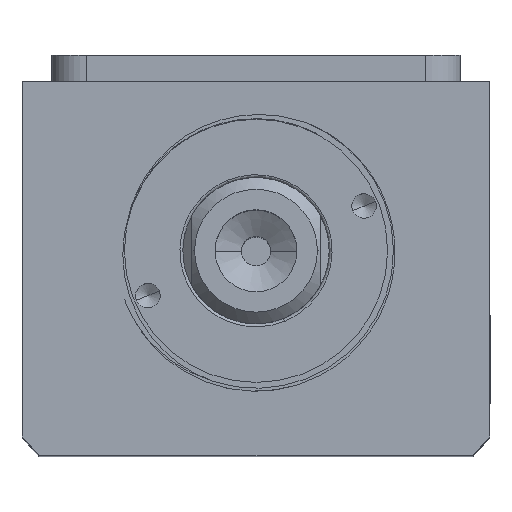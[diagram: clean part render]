
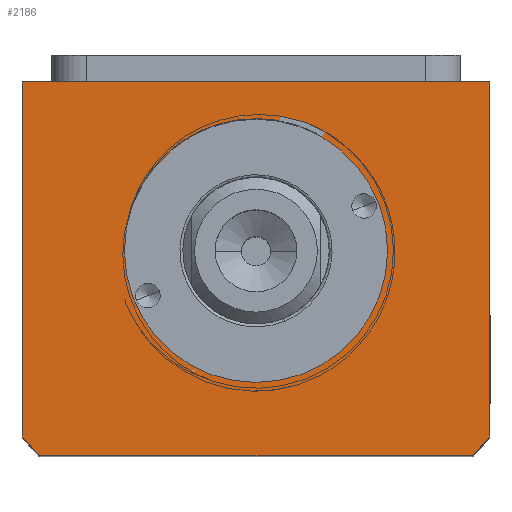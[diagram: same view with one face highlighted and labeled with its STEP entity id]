
A CAD part, top view. The second image highlights one B-rep face of the part: STEP entity #2186.
In plain terms, the highlighted planar face has unit normal (0, 0, 1).
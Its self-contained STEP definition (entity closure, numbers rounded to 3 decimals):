
#520 = CARTESIAN_POINT ( 'NONE',  ( -40., -28.639, 130. ) ) ;
#572 = VERTEX_POINT ( 'NONE', #5864 ) ;
#668 = DIRECTION ( 'NONE',  ( 1., 0., 0. ) ) ;
#873 = CARTESIAN_POINT ( 'NONE',  ( 0., 3., 130. ) ) ;
#1012 = EDGE_LOOP ( 'NONE', ( #7734, #4722, #2351, #2119, #10127, #3475 ) ) ;
#1171 = EDGE_CURVE ( 'NONE', #2992, #3617, #3167, .T. ) ;
#1592 = AXIS2_PLACEMENT_3D ( 'NONE', #4134, #9740, #4934 ) ;
#1668 = DIRECTION ( 'NONE',  ( 1., 0., 0. ) ) ;
#1870 = VERTEX_POINT ( 'NONE', #4838 ) ;
#1871 = EDGE_LOOP ( 'NONE', ( #6368, #10134 ) ) ;
#2119 = ORIENTED_EDGE ( 'NONE', *, *, #8460, .T. ) ;
#2122 = VERTEX_POINT ( 'NONE', #8535 ) ;
#2186 = ADVANCED_FACE ( 'NONE', ( #3047, #9184 ), #10221, .T. ) ;
#2237 = CARTESIAN_POINT ( 'NONE',  ( -40., -32., 130. ) ) ;
#2351 = ORIENTED_EDGE ( 'NONE', *, *, #2876, .T. ) ;
#2397 = DIRECTION ( 'NONE',  ( 0., 1., 0. ) ) ;
#2417 = LINE ( 'NONE', #2237, #8552 ) ;
#2594 = VERTEX_POINT ( 'NONE', #2786 ) ;
#2671 = EDGE_CURVE ( 'NONE', #2594, #8388, #9324, .T. ) ;
#2786 = CARTESIAN_POINT ( 'NONE',  ( -22.5, 3., 130. ) ) ;
#2861 = CARTESIAN_POINT ( 'NONE',  ( 0., 3., 130. ) ) ;
#2876 = EDGE_CURVE ( 'NONE', #3617, #9245, #2417, .T. ) ;
#2954 = AXIS2_PLACEMENT_3D ( 'NONE', #4216, #9828, #5015 ) ;
#2991 = CIRCLE ( 'NONE', #3106, 22.5 ) ;
#2992 = VERTEX_POINT ( 'NONE', #520 ) ;
#3047 = FACE_BOUND ( 'NONE', #1871, .T. ) ;
#3106 = AXIS2_PLACEMENT_3D ( 'NONE', #873, #6433, #1668 ) ;
#3167 = CIRCLE ( 'NONE', #2954, 51. ) ;
#3353 = CIRCLE ( 'NONE', #1592, 51. ) ;
#3475 = ORIENTED_EDGE ( 'NONE', *, *, #9884, .T. ) ;
#3617 = VERTEX_POINT ( 'NONE', #7779 ) ;
#3661 = DIRECTION ( 'NONE',  ( 1., 0., 0. ) ) ;
#3751 = LINE ( 'NONE', #7793, #5861 ) ;
#4134 = CARTESIAN_POINT ( 'NONE',  ( 0., 3., 130. ) ) ;
#4216 = CARTESIAN_POINT ( 'NONE',  ( 0., 3., 130. ) ) ;
#4642 = EDGE_CURVE ( 'NONE', #1870, #2992, #5676, .T. ) ;
#4722 = ORIENTED_EDGE ( 'NONE', *, *, #1171, .T. ) ;
#4838 = CARTESIAN_POINT ( 'NONE',  ( -40., 32., 130. ) ) ;
#4934 = DIRECTION ( 'NONE',  ( 1., 0., 0. ) ) ;
#5015 = DIRECTION ( 'NONE',  ( 1., 0., 0. ) ) ;
#5411 = DIRECTION ( 'NONE',  ( 0., 0., 1. ) ) ;
#5676 = LINE ( 'NONE', #9218, #7816 ) ;
#5861 = VECTOR ( 'NONE', #8609, 1000. ) ;
#5864 = CARTESIAN_POINT ( 'NONE',  ( 40., 32., 130. ) ) ;
#6212 = DIRECTION ( 'NONE',  ( 1., 0., 0. ) ) ;
#6298 = AXIS2_PLACEMENT_3D ( 'NONE', #8606, #5411, #668 ) ;
#6368 = ORIENTED_EDGE ( 'NONE', *, *, #10124, .F. ) ;
#6369 = LINE ( 'NONE', #7974, #8507 ) ;
#6433 = DIRECTION ( 'NONE',  ( 0., 0., 1. ) ) ;
#7591 = DIRECTION ( 'NONE',  ( 0., -1., 0. ) ) ;
#7734 = ORIENTED_EDGE ( 'NONE', *, *, #4642, .T. ) ;
#7779 = CARTESIAN_POINT ( 'NONE',  ( -37.094, -32., 130. ) ) ;
#7793 = CARTESIAN_POINT ( 'NONE',  ( -40., 32., 130. ) ) ;
#7816 = VECTOR ( 'NONE', #7591, 1000. ) ;
#7974 = CARTESIAN_POINT ( 'NONE',  ( 40., 32., 130. ) ) ;
#8388 = VERTEX_POINT ( 'NONE', #8852 ) ;
#8453 = DIRECTION ( 'NONE',  ( 0., 0., 1. ) ) ;
#8460 = EDGE_CURVE ( 'NONE', #9245, #2122, #3353, .T. ) ;
#8507 = VECTOR ( 'NONE', #2397, 1000. ) ;
#8535 = CARTESIAN_POINT ( 'NONE',  ( 40., -28.639, 130. ) ) ;
#8552 = VECTOR ( 'NONE', #6212, 1000. ) ;
#8606 = CARTESIAN_POINT ( 'NONE',  ( 0., 0., 130. ) ) ;
#8609 = DIRECTION ( 'NONE',  ( -1., 0., 0. ) ) ;
#8689 = AXIS2_PLACEMENT_3D ( 'NONE', #2861, #8453, #3661 ) ;
#8852 = CARTESIAN_POINT ( 'NONE',  ( 22.5, 3., 130. ) ) ;
#9184 = FACE_OUTER_BOUND ( 'NONE', #1012, .T. ) ;
#9205 = CARTESIAN_POINT ( 'NONE',  ( 37.094, -32., 130. ) ) ;
#9218 = CARTESIAN_POINT ( 'NONE',  ( -40., 32., 130. ) ) ;
#9245 = VERTEX_POINT ( 'NONE', #9205 ) ;
#9324 = CIRCLE ( 'NONE', #8689, 22.5 ) ;
#9626 = EDGE_CURVE ( 'NONE', #2122, #572, #6369, .T. ) ;
#9740 = DIRECTION ( 'NONE',  ( 0., 0., 1. ) ) ;
#9828 = DIRECTION ( 'NONE',  ( 0., 0., 1. ) ) ;
#9884 = EDGE_CURVE ( 'NONE', #572, #1870, #3751, .T. ) ;
#10124 = EDGE_CURVE ( 'NONE', #8388, #2594, #2991, .T. ) ;
#10127 = ORIENTED_EDGE ( 'NONE', *, *, #9626, .T. ) ;
#10134 = ORIENTED_EDGE ( 'NONE', *, *, #2671, .F. ) ;
#10221 = PLANE ( 'NONE',  #6298 ) ;
